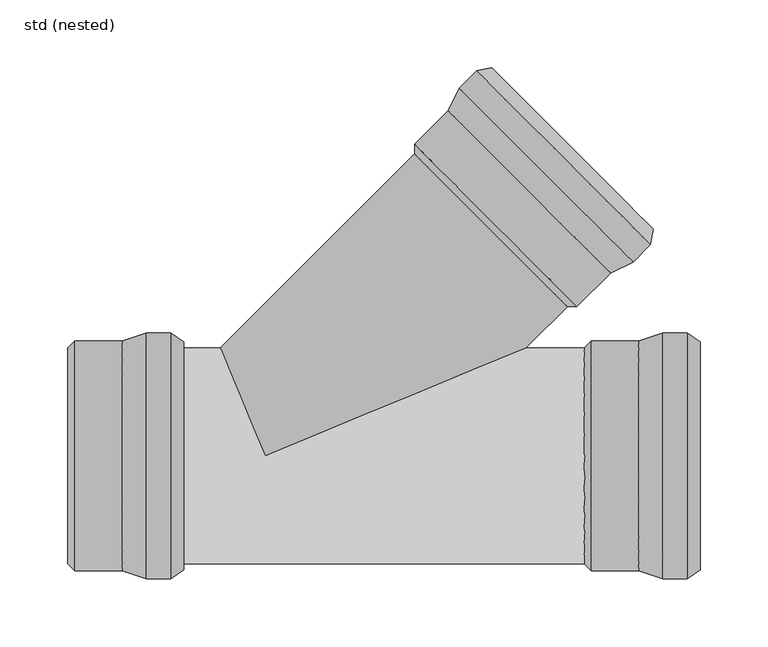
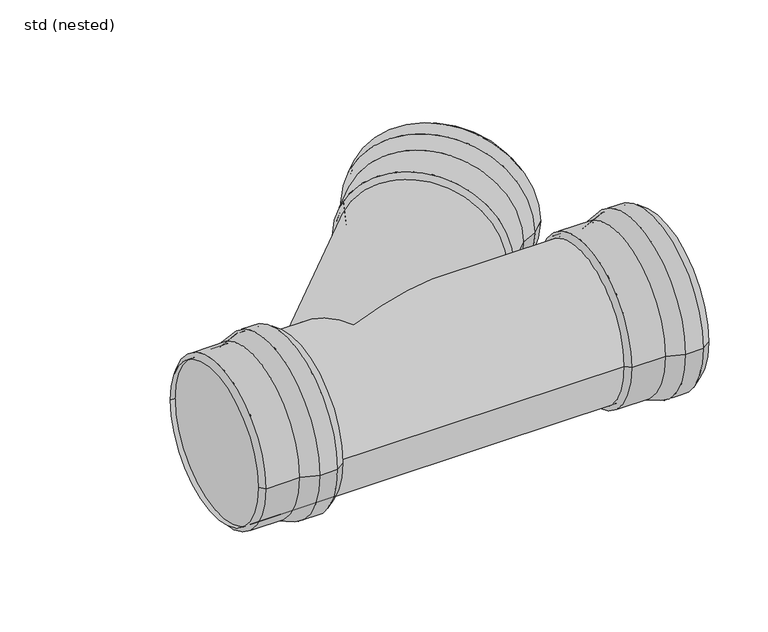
"""IFC4 building model written with IfcOpenShell, lengths in millimetres: pipe fitting geometry, ZZZ_do not use_PIF_ST_UN_GM-X single branch_ACO : std (nested)."""

from ifc_helpers import new_model, si_unit, frame, origin, place, context, project, spatial, polyline, circle_curve, ellipse_curve, source, transform, mapped, element, save
from ifc_brep_helpers import plane_surface, cylinder_surface, revolved_surface, advanced_brep


def std_nested_137f69c4(model_context):
    return source(origin(), model_context, "Body", "AdvancedBrep", [
        advanced_brep(
        [(-87.5, 90.5, 0.0), (-87.5, -90.5, 0.0), (-69.5, -90.5, 0.0), (-69.5, 90.5, 0.0), (-105.0, 84.5, 0.0), (-105.0, -84.5, 0.0), (-60.0, -84.0, 0.0), (-60.0, 84.0, 0.0), (-140.0, 84.5, 0.0), (-140.0, -84.5, 0.0), (-145.0, 79.5, 0.0), (-145.0, -79.5, 0.0), (-140.0, 79.5, 0.0), (-140.0, -79.5, 0.0), (-104.5833333, 82.0, 0.0), (-104.5833333, -82.0, 0.0), (-140.0, -82.0, 0.0), (-140.0, 82.0, 0.0), (-87.0833333, 88.0, 0.0), (-87.0833333, -88.0, 0.0), (-70.2734094, 88.0, 0.0), (-70.2734094, -88.0, 0.0), (-61.4117098, 81.9367318, 0.0), (-61.4117098, -81.9367318, 0.0)],
        [
            (0, 1, circle_curve(frame((-87.5, 0.0, 0.0), z_axis=(1.0, 0.0, 0.0), x_axis=(0.0, -1.0, 0.0)), 90.5)),
            (1, 2),
            (2, 3, circle_curve(frame((-69.5, 0.0, 0.0), z_axis=(-1.0, 0.0, 0.0), x_axis=(0.0, -1.0, 0.0)), 90.5)),
            (3, 0),
            (1, 0, circle_curve(frame((-87.5, 0.0, 0.0), z_axis=(1.0, 0.0, 0.0), x_axis=(0.0, -1.0, 0.0)), 90.5)),
            (3, 2, circle_curve(frame((-69.5, 0.0, 0.0), z_axis=(-1.0, 0.0, 0.0), x_axis=(0.0, -1.0, 0.0)), 90.5)),
            (4, 5, circle_curve(frame((-105.0, 0.0, 0.0), z_axis=(1.0, 0.0, 0.0), x_axis=(0.0, -1.0, 0.0)), 84.5)),
            (5, 1),
            (0, 4),
            (5, 4, circle_curve(frame((-105.0, 0.0, 0.0), z_axis=(1.0, 0.0, 0.0), x_axis=(0.0, -1.0, 0.0)), 84.5)),
            (2, 6),
            (6, 7, circle_curve(frame((-60.0, 0.0, 0.0), z_axis=(-1.0, 0.0, 0.0), x_axis=(0.0, -1.0, 0.0)), 84.0)),
            (7, 3),
            (7, 6, circle_curve(frame((-60.0, 0.0, 0.0), z_axis=(-1.0, 0.0, 0.0), x_axis=(0.0, -1.0, 0.0)), 84.0)),
            (8, 9, circle_curve(frame((-140.0, 0.0, 0.0), z_axis=(1.0, 0.0, 0.0), x_axis=(0.0, -1.0, 0.0)), 84.5)),
            (9, 5),
            (4, 8),
            (9, 8, circle_curve(frame((-140.0, 0.0, 0.0), z_axis=(1.0, 0.0, 0.0), x_axis=(0.0, -1.0, 0.0)), 84.5)),
            (10, 11, circle_curve(frame((-145.0, 0.0, 0.0), z_axis=(1.0, 0.0, 0.0), x_axis=(0.0, -1.0, 0.0)), 79.5)),
            (11, 9),
            (8, 10),
            (11, 10, circle_curve(frame((-145.0, 0.0, 0.0), z_axis=(1.0, 0.0, 0.0), x_axis=(0.0, -1.0, 0.0)), 79.5)),
            (12, 13, circle_curve(frame((-140.0, 0.0, 0.0), z_axis=(1.0, 0.0, 0.0), x_axis=(0.0, -1.0, 0.0)), 79.5)),
            (13, 11),
            (10, 12),
            (13, 12, circle_curve(frame((-140.0, 0.0, 0.0), z_axis=(1.0, 0.0, 0.0), x_axis=(0.0, -1.0, 0.0)), 79.5)),
            (14, 15, circle_curve(frame((-104.5833333, 0.0, 0.0), z_axis=(1.0, 0.0, 0.0), x_axis=(0.0, -1.0, 0.0)), 82.0)),
            (15, 16),
            (16, 17, circle_curve(frame((-140.0, 0.0, 0.0), z_axis=(-1.0, 0.0, 0.0), x_axis=(0.0, -1.0, 0.0)), 82.0)),
            (17, 14),
            (15, 14, circle_curve(frame((-104.5833333, 0.0, 0.0), z_axis=(1.0, 0.0, 0.0), x_axis=(0.0, -1.0, 0.0)), 82.0)),
            (17, 16, circle_curve(frame((-140.0, 0.0, 0.0), z_axis=(-1.0, 0.0, 0.0), x_axis=(0.0, -1.0, 0.0)), 82.0)),
            (18, 19, circle_curve(frame((-87.0833333, 0.0, 0.0), z_axis=(1.0, 0.0, 0.0), x_axis=(0.0, -1.0, 0.0)), 88.0)),
            (19, 15),
            (14, 18),
            (19, 18, circle_curve(frame((-87.0833333, 0.0, 0.0), z_axis=(1.0, 0.0, 0.0), x_axis=(0.0, -1.0, 0.0)), 88.0)),
            (20, 21, circle_curve(frame((-70.2734094, 0.0, 0.0), z_axis=(1.0, 0.0, 0.0), x_axis=(0.0, -1.0, 0.0)), 88.0)),
            (21, 19),
            (18, 20),
            (21, 20, circle_curve(frame((-70.2734094, 0.0, 0.0), z_axis=(1.0, 0.0, 0.0), x_axis=(0.0, -1.0, 0.0)), 88.0)),
            (22, 23, circle_curve(frame((-61.4117098, 0.0, 0.0), z_axis=(1.0, 0.0, 0.0), x_axis=(0.0, -1.0, 0.0)), 81.9367318)),
            (23, 21),
            (20, 22),
            (23, 22, circle_curve(frame((-61.4117098, 0.0, 0.0), z_axis=(1.0, 0.0, 0.0), x_axis=(0.0, -1.0, 0.0)), 81.9367318)),
            (6, 23),
            (22, 7),
            (16, 13),
            (12, 17),
        ],
        [
            cylinder_surface(frame((-63.3555883, 0.0, 0.0), z_axis=(-1.0, 0.0, 0.0), x_axis=(0.0, -1.0, 0.0)), 90.5),
            revolved_surface(polyline([(-87.5, -90.5, 0.0), (-105.0, -84.5, 0.0)]), (-63.3555883, 0.0, 0.0), (-1.0, 0.0, 0.0)),
            revolved_surface(polyline([(-60.0, -84.0, 0.0), (-69.5, -90.5, 0.0)]), (-63.3555883, 0.0, 0.0), (-1.0, 0.0, 0.0)),
            cylinder_surface(frame((-63.3555883, 0.0, 0.0), z_axis=(-1.0, 0.0, 0.0), x_axis=(0.0, -1.0, 0.0)), 84.5),
            revolved_surface(polyline([(-140.0, -84.5, 0.0), (-145.0, -79.5, 0.0)]), (-63.3555883, 0.0, 0.0), (-1.0, 0.0, 0.0)),
            revolved_surface(polyline([(-145.0, -79.5, 0.0), (-140.0, -79.5, 0.0)]), (-63.3555883, 0.0, 0.0), (-1.0, 0.0, 0.0)),
            revolved_surface(polyline([(-140.0, -82.0, 0.0), (-104.5833333, -82.0, 0.0)]), (-63.3555883, 0.0, 0.0), (-1.0, 0.0, 0.0)),
            revolved_surface(polyline([(-104.5833333, -82.0, 0.0), (-87.0833333, -88.0, 0.0)]), (-63.3555883, 0.0, 0.0), (-1.0, 0.0, 0.0)),
            revolved_surface(polyline([(-87.0833333, -88.0, 0.0), (-70.2734094, -88.0, 0.0)]), (-63.3555883, 0.0, 0.0), (-1.0, 0.0, 0.0)),
            revolved_surface(polyline([(-70.2734094, -88.0, 0.0), (-61.4117098, -81.9367318, 0.0)]), (-63.3555883, 0.0, 0.0), (-1.0, 0.0, 0.0)),
            revolved_surface(polyline([(-61.4117098, -81.9367318, 0.0), (-60.0, -84.0, 0.0)]), (-63.3555883, 0.0, 0.0), (-1.0, 0.0, 0.0)),
            plane_surface(frame((-140.0, 0.0, 0.0), z_axis=(1.0, 0.0, 0.0), x_axis=(0.0, -1.0, 0.0))),
        ],
        [
            (0, [[1, 2, 3, 4]]),
            (0, [[5, -4, 6, -2]]),
            (1, [[7, 8, -1, 9]]),
            (1, [[10, -9, -5, -8]]),
            (2, [[-3, 11, 12, 13]]),
            (2, [[-6, -13, 14, -11]]),
            (3, [[15, 16, -7, 17]]),
            (3, [[18, -17, -10, -16]]),
            (4, [[19, 20, -15, 21]]),
            (4, [[22, -21, -18, -20]]),
            (5, [[23, 24, -19, 25]]),
            (5, [[26, -25, -22, -24]]),
            (6, [[27, 28, 29, 30]]),
            (6, [[31, -30, 32, -28]]),
            (7, [[33, 34, -27, 35]]),
            (7, [[36, -35, -31, -34]]),
            (8, [[37, 38, -33, 39]]),
            (8, [[40, -39, -36, -38]]),
            (9, [[41, 42, -37, 43]]),
            (9, [[44, -43, -40, -42]]),
            (10, [[-12, 45, -41, 46]]),
            (10, [[-14, -46, -44, -45]]),
            (11, [[-29, 47, -23, 48]]),
            (11, [[-32, -48, -26, -47]]),
        ],
    ),
        advanced_brep(
        [(292.5, -90.5, 0.0), (292.5, 90.5, 0.0), (310.5, 90.5, 0.0), (310.5, -90.5, 0.0), (275.0, -84.5, 0.0), (275.0, 84.5, 0.0), (320.0, 84.0, 0.0), (320.0, -84.0, 0.0), (240.0, -84.5, 0.0), (240.0, 84.5, 0.0), (235.0, -79.5, 0.0), (235.0, 79.5, 0.0), (240.0, -79.5, 0.0), (240.0, 79.5, 0.0), (275.4166667, -82.0, 0.0), (275.4166667, 82.0, 0.0), (240.0, 82.0, 0.0), (240.0, -82.0, 0.0), (292.9166667, -88.0, 0.0), (292.9166667, 88.0, 0.0), (309.7265906, -88.0, 0.0), (309.7265906, 88.0, 0.0), (318.5882902, -81.9367318, 0.0), (318.5882902, 81.9367318, 0.0)],
        [
            (0, 1, circle_curve(frame((292.5, 0.0, 0.0), z_axis=(1.0, 0.0, 0.0), x_axis=(0.0, 1.0, 0.0)), 90.5)),
            (1, 2),
            (2, 3, circle_curve(frame((310.5, 0.0, 0.0), z_axis=(-1.0, 0.0, 0.0), x_axis=(0.0, 1.0, 0.0)), 90.5)),
            (3, 0),
            (1, 0, circle_curve(frame((292.5, 0.0, 0.0), z_axis=(1.0, 0.0, 0.0), x_axis=(0.0, 1.0, 0.0)), 90.5)),
            (3, 2, circle_curve(frame((310.5, 0.0, 0.0), z_axis=(-1.0, 0.0, 0.0), x_axis=(0.0, 1.0, 0.0)), 90.5)),
            (4, 5, circle_curve(frame((275.0, 0.0, 0.0), z_axis=(1.0, 0.0, 0.0), x_axis=(0.0, 1.0, 0.0)), 84.5)),
            (5, 1),
            (0, 4),
            (5, 4, circle_curve(frame((275.0, 0.0, 0.0), z_axis=(1.0, 0.0, 0.0), x_axis=(0.0, 1.0, 0.0)), 84.5)),
            (2, 6),
            (6, 7, circle_curve(frame((320.0, 0.0, 0.0), z_axis=(-1.0, 0.0, 0.0), x_axis=(0.0, 1.0, 0.0)), 84.0)),
            (7, 3),
            (7, 6, circle_curve(frame((320.0, 0.0, 0.0), z_axis=(-1.0, 0.0, 0.0), x_axis=(0.0, 1.0, 0.0)), 84.0)),
            (8, 9, circle_curve(frame((240.0, 0.0, 0.0), z_axis=(1.0, 0.0, 0.0), x_axis=(0.0, 1.0, 0.0)), 84.5)),
            (9, 5),
            (4, 8),
            (9, 8, circle_curve(frame((240.0, 0.0, 0.0), z_axis=(1.0, 0.0, 0.0), x_axis=(0.0, 1.0, 0.0)), 84.5)),
            (10, 11, circle_curve(frame((235.0, 0.0, 0.0), z_axis=(1.0, 0.0, 0.0), x_axis=(0.0, 1.0, 0.0)), 79.5)),
            (11, 9),
            (8, 10),
            (11, 10, circle_curve(frame((235.0, 0.0, 0.0), z_axis=(1.0, 0.0, 0.0), x_axis=(0.0, 1.0, 0.0)), 79.5)),
            (12, 13, circle_curve(frame((240.0, 0.0, 0.0), z_axis=(1.0, 0.0, 0.0), x_axis=(0.0, 1.0, 0.0)), 79.5)),
            (13, 11),
            (10, 12),
            (13, 12, circle_curve(frame((240.0, 0.0, 0.0), z_axis=(1.0, 0.0, 0.0), x_axis=(0.0, 1.0, 0.0)), 79.5)),
            (14, 15, circle_curve(frame((275.4166667, 0.0, 0.0), z_axis=(1.0, 0.0, 0.0), x_axis=(0.0, 1.0, 0.0)), 82.0)),
            (15, 16),
            (16, 17, circle_curve(frame((240.0, 0.0, 0.0), z_axis=(-1.0, 0.0, 0.0), x_axis=(0.0, 1.0, 0.0)), 82.0)),
            (17, 14),
            (15, 14, circle_curve(frame((275.4166667, 0.0, 0.0), z_axis=(1.0, 0.0, 0.0), x_axis=(0.0, 1.0, 0.0)), 82.0)),
            (17, 16, circle_curve(frame((240.0, 0.0, 0.0), z_axis=(-1.0, 0.0, 0.0), x_axis=(0.0, 1.0, 0.0)), 82.0)),
            (18, 19, circle_curve(frame((292.9166667, 0.0, 0.0), z_axis=(1.0, 0.0, 0.0), x_axis=(0.0, 1.0, 0.0)), 88.0)),
            (19, 15),
            (14, 18),
            (19, 18, circle_curve(frame((292.9166667, 0.0, 0.0), z_axis=(1.0, 0.0, 0.0), x_axis=(0.0, 1.0, 0.0)), 88.0)),
            (20, 21, circle_curve(frame((309.7265906, 0.0, 0.0), z_axis=(1.0, 0.0, 0.0), x_axis=(0.0, 1.0, 0.0)), 88.0)),
            (21, 19),
            (18, 20),
            (21, 20, circle_curve(frame((309.7265906, 0.0, 0.0), z_axis=(1.0, 0.0, 0.0), x_axis=(0.0, 1.0, 0.0)), 88.0)),
            (22, 23, circle_curve(frame((318.5882902, 0.0, 0.0), z_axis=(1.0, 0.0, 0.0), x_axis=(0.0, 1.0, 0.0)), 81.9367318)),
            (23, 21),
            (20, 22),
            (23, 22, circle_curve(frame((318.5882902, 0.0, 0.0), z_axis=(1.0, 0.0, 0.0), x_axis=(0.0, 1.0, 0.0)), 81.9367318)),
            (6, 23),
            (22, 7),
            (16, 13),
            (12, 17),
        ],
        [
            cylinder_surface(frame((316.6444117, 0.0, 0.0), z_axis=(-1.0, 0.0, 0.0), x_axis=(0.0, 1.0, 0.0)), 90.5),
            revolved_surface(polyline([(292.5, 90.5, 0.0), (275.0, 84.5, 0.0)]), (316.6444117, 0.0, 0.0), (-1.0, 0.0, 0.0)),
            revolved_surface(polyline([(320.0, 84.0, 0.0), (310.5, 90.5, 0.0)]), (316.6444117, 0.0, 0.0), (-1.0, 0.0, 0.0)),
            cylinder_surface(frame((316.6444117, 0.0, 0.0), z_axis=(-1.0, 0.0, 0.0), x_axis=(0.0, 1.0, 0.0)), 84.5),
            revolved_surface(polyline([(240.0, 84.5, 0.0), (235.0, 79.5, 0.0)]), (316.6444117, 0.0, 0.0), (-1.0, 0.0, 0.0)),
            revolved_surface(polyline([(235.0, 79.5, 0.0), (240.0, 79.5, 0.0)]), (316.6444117, 0.0, 0.0), (-1.0, 0.0, 0.0)),
            revolved_surface(polyline([(240.0, 82.0, 0.0), (275.4166667, 82.0, 0.0)]), (316.6444117, 0.0, 0.0), (-1.0, 0.0, 0.0)),
            revolved_surface(polyline([(275.4166667, 82.0, 0.0), (292.9166667, 88.0, 0.0)]), (316.6444117, 0.0, 0.0), (-1.0, 0.0, 0.0)),
            revolved_surface(polyline([(292.9166667, 88.0, 0.0), (309.7265906, 88.0, 0.0)]), (316.6444117, 0.0, 0.0), (-1.0, 0.0, 0.0)),
            revolved_surface(polyline([(309.7265906, 88.0, 0.0), (318.5882902, 81.9367318, 0.0)]), (316.6444117, 0.0, 0.0), (-1.0, 0.0, 0.0)),
            revolved_surface(polyline([(318.5882902, 81.9367318, 0.0), (320.0, 84.0, 0.0)]), (316.6444117, 0.0, 0.0), (-1.0, 0.0, 0.0)),
            plane_surface(frame((240.0, 0.0, 0.0), z_axis=(1.0, 0.0, 0.0), x_axis=(0.0, 1.0, 0.0))),
        ],
        [
            (0, [[1, 2, 3, 4]]),
            (0, [[5, -4, 6, -2]]),
            (1, [[7, 8, -1, 9]]),
            (1, [[10, -9, -5, -8]]),
            (2, [[-3, 11, 12, 13]]),
            (2, [[-6, -13, 14, -11]]),
            (3, [[15, 16, -7, 17]]),
            (3, [[18, -17, -10, -16]]),
            (4, [[19, 20, -15, 21]]),
            (4, [[22, -21, -18, -20]]),
            (5, [[23, 24, -19, 25]]),
            (5, [[26, -25, -22, -24]]),
            (6, [[27, 28, 29, 30]]),
            (6, [[31, -30, 32, -28]]),
            (7, [[33, 34, -27, 35]]),
            (7, [[36, -35, -31, -34]]),
            (8, [[37, 38, -33, 39]]),
            (8, [[40, -39, -36, -38]]),
            (9, [[41, 42, -37, 43]]),
            (9, [[44, -43, -40, -42]]),
            (10, [[-12, 45, -41, 46]]),
            (10, [[-14, -46, -44, -45]]),
            (11, [[-29, 47, -23, 48]]),
            (11, [[-32, -48, -26, -47]]),
        ],
    ),
        advanced_brep(
        [(270.8218972, 142.8355698, 0.0), (142.8355698, 270.8218972, 0.0), (155.5634919, 283.5498193, 0.0), (283.5498193, 155.5634919, 0.0), (254.2048878, 134.7038418, 0.0), (134.7038418, 254.2048878, 0.0), (166.8772004, 285.6711396, 0.0), (285.6711396, 166.8772004, 0.0), (229.4561505, 109.9551045, 0.0), (109.9551045, 229.4561505, 0.0), (222.3850827, 109.9551045, 0.0), (109.9551045, 222.3850827, 0.0), (225.9206166, 113.4906384, 0.0), (113.4906384, 225.9206166, 0.0), (252.7317487, 136.7662366, 0.0), (136.7662366, 252.7317487, 0.0), (111.7228714, 227.6883835, 0.0), (227.6883835, 111.7228714, 0.0), (269.3487581, 144.8979646, 0.0), (144.8979646, 269.3487581, 0.0), (281.2351693, 156.7843758, 0.0), (156.7843758, 281.2351693, 0.0), (283.2139591, 167.3379217, 0.0), (167.3379217, 283.2139591, 0.0)],
        [
            (0, 1, circle_curve(frame((206.8287335, 206.8287335, 0.0), z_axis=(0.7071067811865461, 0.7071067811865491, 0.0), x_axis=(-0.7071067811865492, 0.7071067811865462, 0.0)), 90.5)),
            (1, 2),
            (2, 3, circle_curve(frame((219.5566556, 219.5566556, 0.0), z_axis=(-0.7071067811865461, -0.7071067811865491, 0.0), x_axis=(-0.7071067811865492, 0.7071067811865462, 0.0)), 90.5)),
            (3, 0),
            (1, 0, circle_curve(frame((206.8287335, 206.8287335, 0.0), z_axis=(0.7071067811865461, 0.7071067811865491, 0.0), x_axis=(-0.7071067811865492, 0.7071067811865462, 0.0)), 90.5)),
            (3, 2, circle_curve(frame((219.5566556, 219.5566556, 0.0), z_axis=(-0.7071067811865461, -0.7071067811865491, 0.0), x_axis=(-0.7071067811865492, 0.7071067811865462, 0.0)), 90.5)),
            (4, 5, circle_curve(frame((194.4543648, 194.4543648, 0.0), z_axis=(0.7071067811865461, 0.7071067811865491, 0.0), x_axis=(-0.7071067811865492, 0.7071067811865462, 0.0)), 84.5)),
            (5, 1),
            (0, 4),
            (5, 4, circle_curve(frame((194.4543648, 194.4543648, 0.0), z_axis=(0.7071067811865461, 0.7071067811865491, 0.0), x_axis=(-0.7071067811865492, 0.7071067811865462, 0.0)), 84.5)),
            (2, 6),
            (6, 7, circle_curve(frame((226.27417, 226.27417, 0.0), z_axis=(-0.7071067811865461, -0.7071067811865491, 0.0), x_axis=(-0.7071067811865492, 0.7071067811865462, 0.0)), 84.0)),
            (7, 3),
            (7, 6, circle_curve(frame((226.27417, 226.27417, 0.0), z_axis=(-0.7071067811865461, -0.7071067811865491, 0.0), x_axis=(-0.7071067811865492, 0.7071067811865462, 0.0)), 84.0)),
            (8, 9, circle_curve(frame((169.7056275, 169.7056275, 0.0), z_axis=(0.7071067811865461, 0.7071067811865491, 0.0), x_axis=(-0.7071067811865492, 0.7071067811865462, 0.0)), 84.5)),
            (9, 5),
            (4, 8),
            (9, 8, circle_curve(frame((169.7056275, 169.7056275, 0.0), z_axis=(0.7071067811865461, 0.7071067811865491, 0.0), x_axis=(-0.7071067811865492, 0.7071067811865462, 0.0)), 84.5)),
            (10, 11, circle_curve(frame((166.1700936, 166.1700936, 0.0), z_axis=(0.7071067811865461, 0.7071067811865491, 0.0), x_axis=(-0.7071067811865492, 0.7071067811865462, 0.0)), 79.5)),
            (11, 9),
            (8, 10),
            (11, 10, circle_curve(frame((166.1700936, 166.1700936, 0.0), z_axis=(0.7071067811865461, 0.7071067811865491, 0.0), x_axis=(-0.7071067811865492, 0.7071067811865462, 0.0)), 79.5)),
            (12, 13, circle_curve(frame((169.7056275, 169.7056275, 0.0), z_axis=(0.7071067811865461, 0.7071067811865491, 0.0), x_axis=(-0.7071067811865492, 0.7071067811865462, 0.0)), 79.5)),
            (13, 11),
            (10, 12),
            (13, 12, circle_curve(frame((169.7056275, 169.7056275, 0.0), z_axis=(0.7071067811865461, 0.7071067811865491, 0.0), x_axis=(-0.7071067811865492, 0.7071067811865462, 0.0)), 79.5)),
            (14, 15, circle_curve(frame((194.7489927, 194.7489927, 0.0), z_axis=(0.7071067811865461, 0.7071067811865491, 0.0), x_axis=(-0.7071067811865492, 0.7071067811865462, 0.0)), 82.0)),
            (15, 16),
            (16, 17, circle_curve(frame((169.7056275, 169.7056275, 0.0), z_axis=(-0.7071067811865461, -0.7071067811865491, 0.0), x_axis=(-0.7071067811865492, 0.7071067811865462, 0.0)), 82.0)),
            (17, 14),
            (15, 14, circle_curve(frame((194.7489927, 194.7489927, 0.0), z_axis=(0.7071067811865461, 0.7071067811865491, 0.0), x_axis=(-0.7071067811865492, 0.7071067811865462, 0.0)), 82.0)),
            (17, 16, circle_curve(frame((169.7056275, 169.7056275, 0.0), z_axis=(-0.7071067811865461, -0.7071067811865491, 0.0), x_axis=(-0.7071067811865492, 0.7071067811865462, 0.0)), 82.0)),
            (18, 19, circle_curve(frame((207.1233613, 207.1233613, 0.0), z_axis=(0.7071067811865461, 0.7071067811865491, 0.0), x_axis=(-0.7071067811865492, 0.7071067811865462, 0.0)), 88.0)),
            (19, 15),
            (14, 18),
            (19, 18, circle_curve(frame((207.1233613, 207.1233613, 0.0), z_axis=(0.7071067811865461, 0.7071067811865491, 0.0), x_axis=(-0.7071067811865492, 0.7071067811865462, 0.0)), 88.0)),
            (20, 21, circle_curve(frame((219.0097725, 219.0097725, 0.0), z_axis=(0.7071067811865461, 0.7071067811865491, 0.0), x_axis=(-0.7071067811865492, 0.7071067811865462, 0.0)), 88.0)),
            (21, 19),
            (18, 20),
            (21, 20, circle_curve(frame((219.0097725, 219.0097725, 0.0), z_axis=(0.7071067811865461, 0.7071067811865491, 0.0), x_axis=(-0.7071067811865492, 0.7071067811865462, 0.0)), 88.0)),
            (22, 23, circle_curve(frame((225.2759404, 225.2759404, 0.0), z_axis=(0.7071067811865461, 0.7071067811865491, 0.0), x_axis=(-0.7071067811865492, 0.7071067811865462, 0.0)), 81.9367318)),
            (23, 21),
            (20, 22),
            (23, 22, circle_curve(frame((225.2759404, 225.2759404, 0.0), z_axis=(0.7071067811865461, 0.7071067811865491, 0.0), x_axis=(-0.7071067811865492, 0.7071067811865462, 0.0)), 81.9367318)),
            (6, 23),
            (22, 7),
            (16, 13),
            (12, 17),
        ],
        [
            cylinder_surface(frame((223.9014107, 223.9014107, 0.0), z_axis=(-0.7071067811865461, -0.7071067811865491, 0.0), x_axis=(-0.7071067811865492, 0.7071067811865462, 0.0)), 90.5),
            revolved_surface(polyline([(142.8355698, 270.8218972, 0.0), (134.7038418, 254.2048878, 0.0)]), (223.9014107, 223.9014107, 0.0), (-0.7071067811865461, -0.7071067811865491, 0.0)),
            revolved_surface(polyline([(166.8772004, 285.6711396, 0.0), (155.5634919, 283.5498193, 0.0)]), (223.9014107, 223.9014107, 0.0), (-0.7071067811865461, -0.7071067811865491, 0.0)),
            cylinder_surface(frame((223.9014107, 223.9014107, 0.0), z_axis=(-0.7071067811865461, -0.7071067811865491, 0.0), x_axis=(-0.7071067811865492, 0.7071067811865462, 0.0)), 84.5),
            revolved_surface(polyline([(109.9551045, 229.4561505, 0.0), (109.9551045, 222.3850827, 0.0)]), (223.9014107, 223.9014107, 0.0), (-0.7071067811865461, -0.7071067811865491, 0.0)),
            revolved_surface(polyline([(109.9551044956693, 222.38508270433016, 0.0), (113.49063839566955, 225.92061660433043, 0.0)]), (223.9014107, 223.9014107, 0.0), (-0.7071067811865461, -0.7071067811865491, 0.0)),
            revolved_surface(polyline([(111.72287139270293, 227.68838350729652, 0.0), (136.766236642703, 252.7317487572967, 0.0)]), (223.9014107, 223.9014107, 0.0), (-0.7071067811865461, -0.7071067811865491, 0.0)),
            revolved_surface(polyline([(136.7662366, 252.7317487, 0.0), (144.8979646, 269.3487581, 0.0)]), (223.9014107, 223.9014107, 0.0), (-0.7071067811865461, -0.7071067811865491, 0.0)),
            revolved_surface(polyline([(144.8979645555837, 269.34875804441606, 0.0), (156.78437580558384, 281.2351692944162, 0.0)]), (223.9014107, 223.9014107, 0.0), (-0.7071067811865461, -0.7071067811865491, 0.0)),
            revolved_surface(polyline([(156.7843758, 281.2351693, 0.0), (167.3379217, 283.2139591, 0.0)]), (223.9014107, 223.9014107, 0.0), (-0.7071067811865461, -0.7071067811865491, 0.0)),
            revolved_surface(polyline([(167.3379217, 283.2139591, 0.0), (166.8772004, 285.6711396, 0.0)]), (223.9014107, 223.9014107, 0.0), (-0.7071067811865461, -0.7071067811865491, 0.0)),
            plane_surface(frame((169.7056275, 169.7056275, 0.0), z_axis=(0.7071067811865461, 0.7071067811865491, 0.0), x_axis=(-0.7071067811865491, 0.7071067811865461, 0.0))),
        ],
        [
            (0, [[1, 2, 3, 4]]),
            (0, [[5, -4, 6, -2]]),
            (1, [[7, 8, -1, 9]]),
            (1, [[10, -9, -5, -8]]),
            (2, [[-3, 11, 12, 13]]),
            (2, [[-6, -13, 14, -11]]),
            (3, [[15, 16, -7, 17]]),
            (3, [[18, -17, -10, -16]]),
            (4, [[19, 20, -15, 21]]),
            (4, [[22, -21, -18, -20]]),
            (5, [[23, 24, -19, 25]]),
            (5, [[26, -25, -22, -24]]),
            (6, [[27, 28, 29, 30]]),
            (6, [[31, -30, 32, -28]]),
            (7, [[33, 34, -27, 35]]),
            (7, [[36, -35, -31, -34]]),
            (8, [[37, 38, -33, 39]]),
            (8, [[40, -39, -36, -38]]),
            (9, [[41, 42, -37, 43]]),
            (9, [[44, -43, -40, -42]]),
            (10, [[-12, 45, -41, 46]]),
            (10, [[-14, -46, -44, -45]]),
            (11, [[-29, 47, -23, 48]]),
            (11, [[-32, -48, -26, -47]]),
        ],
    ),
        advanced_brep(
        [(240.0, -79.5, 0.0), (240.0, 79.5, 0.0), (-140.0, -79.5, 0.0), (-140.0, 79.5, 0.0), (-32.9299782, 79.5, 0.0), (0.0, 0.0, -79.5), (191.9299782, 79.5, 0.0), (0.0, 0.0, 79.5), (225.9206166, 113.4906384, 0.0), (113.4906384, 225.9206166, 0.0)],
        [
            (0, 1, circle_curve(frame((240.0, 0.0, 0.0), z_axis=(1.0, 0.0, 0.0), x_axis=(0.0, 1.0, 0.0)), 79.5)),
            (1, 0, circle_curve(frame((240.0, 0.0, 0.0), z_axis=(1.0, 0.0, 0.0), x_axis=(0.0, 1.0, 0.0)), 79.5)),
            (2, 3, circle_curve(frame((-140.0, 0.0, 0.0), z_axis=(-1.0, 0.0, 0.0), x_axis=(0.0, 1.0, 0.0)), 79.5)),
            (3, 2, circle_curve(frame((-140.0, 0.0, 0.0), z_axis=(-1.0, 0.0, 0.0), x_axis=(0.0, 1.0, 0.0)), 79.5)),
            (0, 2),
            (3, 4),
            (4, 5, ellipse_curve(frame((0.0, 0.0, 0.0), z_axis=(-0.9238795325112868, -0.38268343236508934, 0.0), x_axis=(0.38268343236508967, -0.9238795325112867, 0.0)), 86.0501799, 79.5)),
            (5, 6, ellipse_curve(frame((0.0, 0.0, 0.0), z_axis=(0.3826834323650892, -0.9238795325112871, 0.0), x_axis=(0.9238795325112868, 0.3826834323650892, 0.0)), 207.7435114, 79.5)),
            (6, 1),
            (6, 7, ellipse_curve(frame((0.0, 0.0, 0.0), z_axis=(0.3826834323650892, -0.9238795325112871, 0.0), x_axis=(0.9238795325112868, 0.3826834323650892, 0.0)), 207.7435114, 79.5)),
            (7, 4, ellipse_curve(frame((0.0, 0.0, 0.0), z_axis=(-0.9238795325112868, -0.38268343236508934, 0.0), x_axis=(0.38268343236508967, -0.9238795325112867, 0.0)), 86.0501799, 79.5)),
            (8, 9, circle_curve(frame((169.7056275, 169.7056275, 0.0), z_axis=(0.7071067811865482, 0.707106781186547, 0.0), x_axis=(-0.707106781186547, 0.7071067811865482, 0.0)), 79.5)),
            (9, 8, circle_curve(frame((169.7056275, 169.7056275, 0.0), z_axis=(0.7071067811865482, 0.707106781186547, 0.0), x_axis=(-0.707106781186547, 0.7071067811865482, 0.0)), 79.5)),
            (9, 4),
            (6, 8),
        ],
        [
            plane_surface(frame((240.0, 79.5, 0.0), z_axis=(1.0, 0.0, 0.0), x_axis=(0.0, 0.0, 1.0))),
            plane_surface(frame((-140.0, 79.5, 0.0), z_axis=(-1.0, 0.0, 0.0), x_axis=(0.0, 0.0, -1.0))),
            cylinder_surface(frame((-140.0, 0.0, 0.0), z_axis=(1.0, 0.0, 0.0), x_axis=(0.0, 1.0, 0.0)), 79.5),
            plane_surface(frame((169.7056275, 169.7056275, 0.0), z_axis=(0.7071067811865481, 0.7071067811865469, 0.0), x_axis=(0.0, 0.0, 1.0))),
            cylinder_surface(frame((0.0, 0.0, 0.0), z_axis=(-0.7071067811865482, -0.707106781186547, 0.0), x_axis=(-0.707106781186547, 0.7071067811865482, 0.0)), 79.5),
        ],
        [
            (0, [[1, 2]]),
            (1, [[3, 4]]),
            (2, [[-1, 5, -4, 6, 7, 8, 9]]),
            (2, [[-2, -9, 10, 11, -6, -3, -5]]),
            (3, [[12, 13]]),
            (4, [[-13, 14, -11, -10, 15]]),
            (4, [[-12, -15, -8, -7, -14]]),
        ],
    ),
    ])


if __name__ == "__main__":
    model = new_model("IFC4")
    model_context = context("Model", 3, world=origin())
    ifc_project = project(units=[si_unit("LENGTHUNIT", "METRE", prefix="MILLI")], contexts=[model_context])
    site = spatial("IfcSite", under=ifc_project)
    building = spatial("IfcBuilding", under=site)
    placement = place(None, origin())
    std_nested_shape = std_nested_137f69c4(model_context)
    element("IfcPipeFitting", 1, ObjectType="ZZZ_do not use_PIF_ST_UN_GM-X single branch_ACO : std (nested)", at=placement, inside=building, context=model_context, shape_type="MappedRepresentation", body=[
        mapped(std_nested_shape, transform((0.0, 0.0, 0.0), x_axis=(1.0, 0.0, 0.0), y_axis=(0.0, 1.0, 0.0), z_axis=(0.0, 0.0, 1.0))),
    ])
    save(model, "model.ifc")
